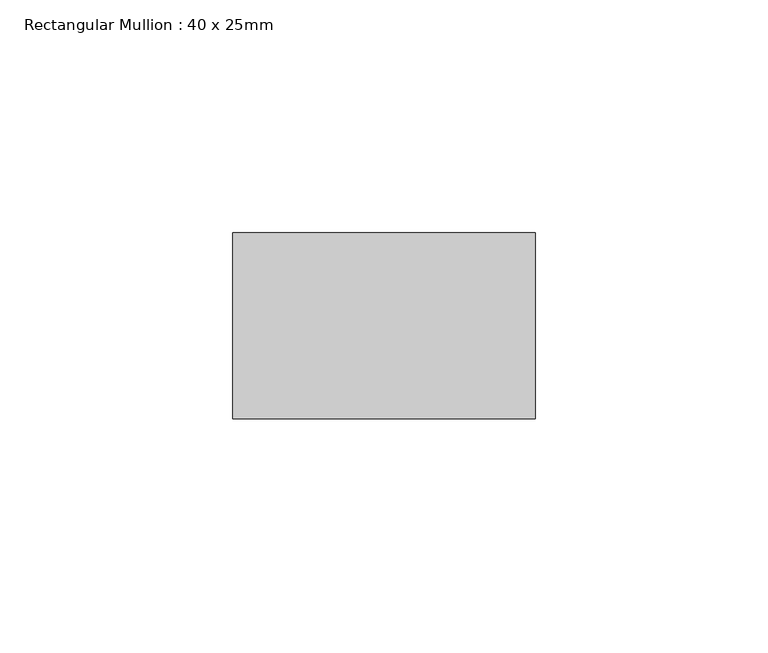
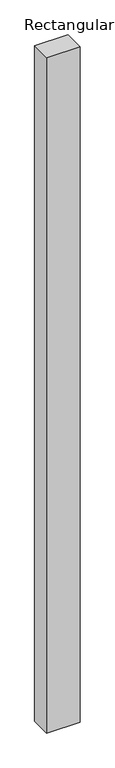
"""IFC4 building model written with IfcOpenShell, lengths in millimetres: member geometry, Rectangular Mullion : 40 x 25mm."""

from ifc_helpers import new_model, si_unit, frame, origin, place, context, project, spatial, polyline, outline, extrude, source, transform, mapped, element, save


def rectangular_mullion_40_x_25mm_d4f0145b(model_context):
    return source(origin(), model_context, "Body", "SweptSolid", [
        extrude(outline(polyline([(40.0, -20.0), (40.0, -60.0), (-25.0, -60.0), (-25.0, -20.0), (40.0, -20.0)])), frame((0.0, 0.0, -1390.0), z_axis=(0.0, 0.0, 1.0), x_axis=(1.0, 0.0, 0.0)), (0.0, 0.0, 1.0), 1390.0),
    ])


if __name__ == "__main__":
    model = new_model("IFC4")
    model_context = context("Model", 3, world=origin())
    ifc_project = project(units=[si_unit("LENGTHUNIT", "METRE", prefix="MILLI")], contexts=[model_context])
    site = spatial("IfcSite", under=ifc_project)
    building = spatial("IfcBuilding", under=site)
    placement = place(None, origin())
    rectangular_mullion_40_x_25mm_shape = rectangular_mullion_40_x_25mm_d4f0145b(model_context)
    element("IfcMember", 1, ObjectType="Rectangular Mullion : 40 x 25mm", at=placement, inside=building, context=model_context, shape_type="MappedRepresentation", body=[
        mapped(rectangular_mullion_40_x_25mm_shape, transform((0.0, 0.0, 0.0), x_axis=(1.0, 0.0, 0.0), y_axis=(0.0, 1.0, 0.0), z_axis=(0.0, 0.0, 1.0))),
    ])
    save(model, "model.ifc")
